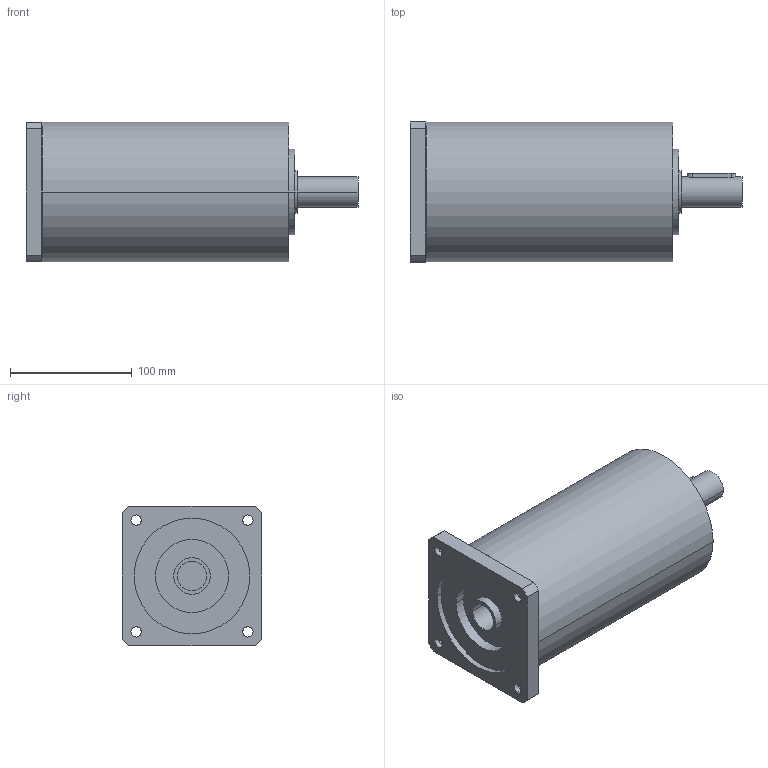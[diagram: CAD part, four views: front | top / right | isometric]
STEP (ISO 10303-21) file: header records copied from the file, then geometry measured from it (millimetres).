
FILE_DESCRIPTION(('CoCreate Modeling STEP Export'),'2;1');
FILE_NAME('GPR125_ig-48-64-80-100-140-196-245-343_25_B14_24_P18.stp','2014-08-26T14:22:36',(''),(''),'CoCreate Modeling STEP processor for AP214 (Solid Model)','CoCreate Modeling 16.00C 25-Feb-2009 (C) Parametric Technology GmbH','');
FILE_SCHEMA(('AUTOMOTIVE_DESIGN { 1 0 10303 214 1 1 1 1 }'));
Length unit declared in the file: millimetre
Products named in the file (2): GPR125_ig-48-64-80-100-140-196-245-343_25_B14_24_P18
Assembly tree (1 placements, depth 2):
  GPR125_ig-48-64-80-100-140-196-245-343_25_B14_24_P18
    GPR125_ig-48-64-80-100-140-196-245-343_25_B14_24_P18
Bounding box: 273 x 115 x 115 mm (x, y, z)
Volume: 2238991 mm3; surface area: 123135.8 mm2
Topology: 1 solids, 1 shells, 77 faces, 212 edges, 152 vertices
Faces by surface type: cylinder 48, plane 25, cone 4
Entity records: 2153 total; most frequent: ORIENTED_EDGE 420, CARTESIAN_POINT 399, DIRECTION 288, EDGE_CURVE 210, VERTEX_POINT 152, AXIS2_PLACEMENT_3D 109, EDGE_LOOP 102, FACE_OUTER_BOUND 77
